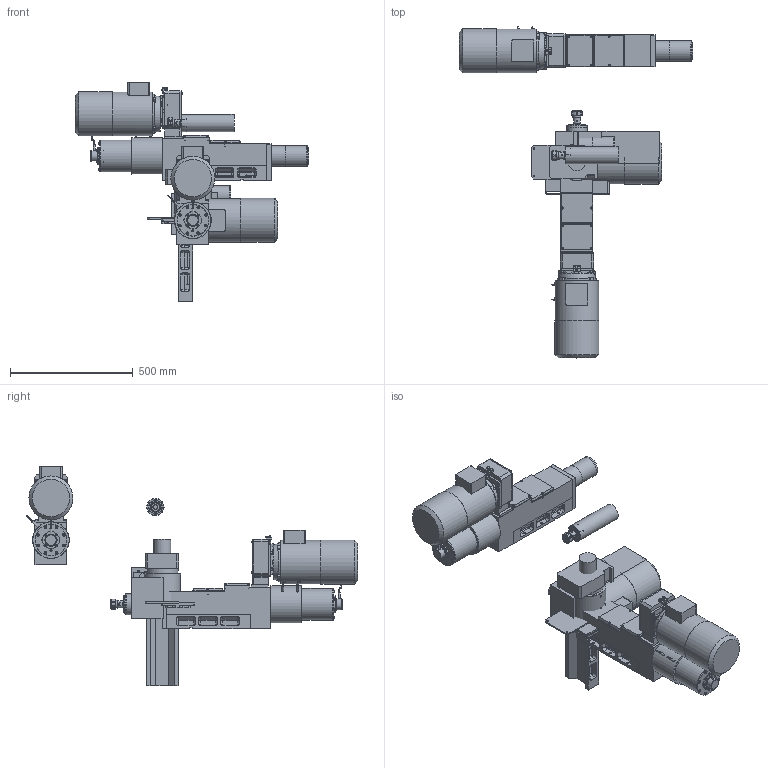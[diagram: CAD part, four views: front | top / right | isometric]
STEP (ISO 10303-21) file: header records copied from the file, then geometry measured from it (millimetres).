
FILE_DESCRIPTION( ( 'STEP AP203' ), '1' );
FILE_NAME( 'C:/Documents and Settings/Saverio/Desktop/disegni ironcad/unità serie 2/MC216A (ex MC220A)/MC 216 A_A02_P.stp', '2014-03-25T11:00:46', ( ' ' ), ( ' ' ), 'XStep 1.0', ' ', ' ' );
FILE_SCHEMA( ( 'CONFIG_CONTROL_DESIGN' ) );
Length unit declared in the file: metre
Products named in the file (56): Assem1; Assem2; Assem3; 1; 2; 3; 4; 5; 6; 7; 8; 9; 10; 11; 12; 13; 14; 15; 16; 17; 18; 19; 20; 21; 22; 23; 24; 25; 26; 27; 28; 29; 30; 31; 32; 33; 34; 35; 36; 37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
Bounding box: 950 x 1350.52 x 894.21 mm (x, y, z)
Volume: 61113036 mm3; surface area: 4677547.1 mm2
Topology: 159 solids, 162 shells, 3633 faces, 8238 edges, 5064 vertices
Faces by surface type: plane 1935, cylinder 936, cone 507, bspline 150, sphere 60, torus 45
Full cylindrical faces by diameter (mm): 3 x3, 5 x66, 5.5 x57, 6 x24, 6.5 x42, 6.637 x15, 6.647 x12, 6.75 x18, 7 x3, 8 x9, 8.385 x3, 8.5 x48, 8.75 x18, 8.758 x3, 18 x12, 20 x3, 20.5 x3, 24 x3, 30 x9, 30.5 x3, 31.2 x3, 42 x3, 44 x3, 44.2 x3, 50 x6, 50.5 x3, 52 x3, 53 x3, 54 x6, 70 x9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
Entity records: 37808 total; most frequent: CARTESIAN_POINT 10044, DIRECTION 5265, ORIENTED_EDGE 4610, EDGE_CURVE 2305, AXIS2_PLACEMENT_3D 1994, EDGE_LOOP 1727, VERTEX_POINT 1614, FACE_OUTER_BOUND 1382
